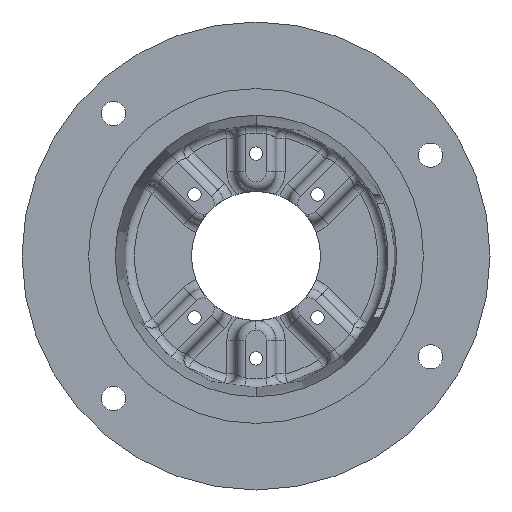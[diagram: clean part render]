
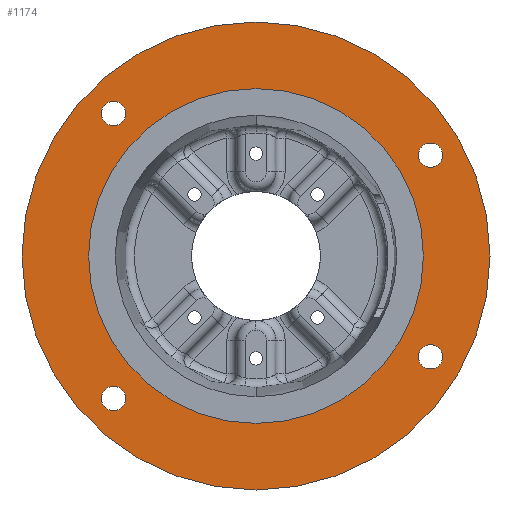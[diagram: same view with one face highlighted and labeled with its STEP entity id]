
A CAD part, front view. The second image highlights one B-rep face of the part: STEP entity #1174.
In plain terms, the highlighted planar face has unit normal (0, -1, 0).
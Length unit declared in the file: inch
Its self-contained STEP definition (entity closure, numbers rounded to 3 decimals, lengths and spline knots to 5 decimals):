
#34 = EDGE_LOOP ( 'NONE', ( #6820, #5378 ) ) ;
#96 = CIRCLE ( 'NONE', #3428, 0.23438 ) ;
#127 = EDGE_CURVE ( 'NONE', #4689, #1696, #5790, .T. ) ;
#206 = CIRCLE ( 'NONE', #2823, 3.2195 ) ;
#259 = ORIENTED_EDGE ( 'NONE', *, *, #1863, .T. ) ;
#361 = VERTEX_POINT ( 'NONE', #5531 ) ;
#367 = VERTEX_POINT ( 'NONE', #2411 ) ;
#419 = AXIS2_PLACEMENT_3D ( 'NONE', #6550, #3299, #7107 ) ;
#438 = CIRCLE ( 'NONE', #6273, 3.2195 ) ;
#586 = CARTESIAN_POINT ( 'NONE',  ( -2.74004, 0., -2.50566 ) ) ;
#638 = DIRECTION ( 'NONE',  ( 0., -1., 0. ) ) ;
#771 = CARTESIAN_POINT ( 'NONE',  ( -4.5, 0., 0. ) ) ;
#880 = FACE_BOUND ( 'NONE', #4028, .T. ) ;
#924 = DIRECTION ( 'NONE',  ( 0., -1., 0. ) ) ;
#957 = DIRECTION ( 'NONE',  ( 0., -1., 0. ) ) ;
#989 = CIRCLE ( 'NONE', #4680, 4.5 ) ;
#1027 = CARTESIAN_POINT ( 'NONE',  ( 3.35585, 0., 1.70313 ) ) ;
#1065 = FACE_BOUND ( 'NONE', #4872, .T. ) ;
#1076 = VERTEX_POINT ( 'NONE', #5845 ) ;
#1133 = ORIENTED_EDGE ( 'NONE', *, *, #4285, .F. ) ;
#1165 = CARTESIAN_POINT ( 'NONE',  ( 0., 0., 0. ) ) ;
#1174 = ADVANCED_FACE ( 'NONE', ( #1065, #2362, #3843, #5284, #880, #6569 ), #1347, .F. ) ;
#1263 = CARTESIAN_POINT ( 'NONE',  ( 3.35585, 0., 1.9375 ) ) ;
#1347 = PLANE ( 'NONE',  #1413 ) ;
#1413 = AXIS2_PLACEMENT_3D ( 'NONE', #771, #1908, #5747 ) ;
#1464 = AXIS2_PLACEMENT_3D ( 'NONE', #3965, #638, #4520 ) ;
#1612 = EDGE_LOOP ( 'NONE', ( #1133, #6053 ) ) ;
#1675 = CIRCLE ( 'NONE', #6061, 0.23438 ) ;
#1696 = VERTEX_POINT ( 'NONE', #1866 ) ;
#1701 = CARTESIAN_POINT ( 'NONE',  ( 3.35585, 0., -1.9375 ) ) ;
#1729 = DIRECTION ( 'NONE',  ( 0., 0., -1. ) ) ;
#1824 = DIRECTION ( 'NONE',  ( 0., 0., -1. ) ) ;
#1863 = EDGE_CURVE ( 'NONE', #6856, #3195, #6250, .T. ) ;
#1866 = CARTESIAN_POINT ( 'NONE',  ( 3.35585, 0., 2.17188 ) ) ;
#1877 = ORIENTED_EDGE ( 'NONE', *, *, #3325, .F. ) ;
#1908 = DIRECTION ( 'NONE',  ( 0., 1., 0. ) ) ;
#1934 = CARTESIAN_POINT ( 'NONE',  ( -2.74004, 0., 2.74004 ) ) ;
#1941 = VERTEX_POINT ( 'NONE', #2338 ) ;
#2005 = EDGE_LOOP ( 'NONE', ( #4182, #259 ) ) ;
#2033 = AXIS2_PLACEMENT_3D ( 'NONE', #2661, #6487, #3228 ) ;
#2103 = CARTESIAN_POINT ( 'NONE',  ( -2.74004, 0., -2.74004 ) ) ;
#2176 = AXIS2_PLACEMENT_3D ( 'NONE', #2103, #5946, #2664 ) ;
#2182 = ORIENTED_EDGE ( 'NONE', *, *, #2399, .F. ) ;
#2195 = CARTESIAN_POINT ( 'NONE',  ( 0., 0., 3.2195 ) ) ;
#2213 = CIRCLE ( 'NONE', #5551, 0.23438 ) ;
#2250 = DIRECTION ( 'NONE',  ( 0., 0., -1. ) ) ;
#2317 = DIRECTION ( 'NONE',  ( 0., -1., 0. ) ) ;
#2338 = CARTESIAN_POINT ( 'NONE',  ( 3.35585, 0., -1.70312 ) ) ;
#2359 = CIRCLE ( 'NONE', #2176, 0.23437 ) ;
#2362 = FACE_OUTER_BOUND ( 'NONE', #2005, .T. ) ;
#2399 = EDGE_CURVE ( 'NONE', #5826, #6163, #4401, .T. ) ;
#2411 = CARTESIAN_POINT ( 'NONE',  ( -2.74004, 0., 2.97441 ) ) ;
#2485 = DIRECTION ( 'NONE',  ( 0., 0., -1. ) ) ;
#2661 = CARTESIAN_POINT ( 'NONE',  ( 3.35585, 0., -1.9375 ) ) ;
#2664 = DIRECTION ( 'NONE',  ( 0., 0., -1. ) ) ;
#2823 = AXIS2_PLACEMENT_3D ( 'NONE', #4286, #957, #4844 ) ;
#2842 = EDGE_CURVE ( 'NONE', #6377, #5777, #206, .T. ) ;
#2992 = CARTESIAN_POINT ( 'NONE',  ( -2.74004, 0., 2.74004 ) ) ;
#3085 = EDGE_CURVE ( 'NONE', #1076, #367, #96, .T. ) ;
#3195 = VERTEX_POINT ( 'NONE', #6360 ) ;
#3228 = DIRECTION ( 'NONE',  ( 0., 0., -1. ) ) ;
#3299 = DIRECTION ( 'NONE',  ( 0., -1., 0. ) ) ;
#3325 = EDGE_CURVE ( 'NONE', #6163, #5826, #2359, .T. ) ;
#3346 = CIRCLE ( 'NONE', #6104, 0.23438 ) ;
#3428 = AXIS2_PLACEMENT_3D ( 'NONE', #1934, #5770, #2485 ) ;
#3439 = EDGE_LOOP ( 'NONE', ( #3803, #4113 ) ) ;
#3538 = DIRECTION ( 'NONE',  ( 0., 0., -1. ) ) ;
#3611 = EDGE_CURVE ( 'NONE', #1941, #361, #4320, .T. ) ;
#3803 = ORIENTED_EDGE ( 'NONE', *, *, #2842, .F. ) ;
#3843 = FACE_BOUND ( 'NONE', #3439, .T. ) ;
#3911 = ORIENTED_EDGE ( 'NONE', *, *, #127, .F. ) ;
#3965 = CARTESIAN_POINT ( 'NONE',  ( -2.74004, 0., -2.74004 ) ) ;
#4028 = EDGE_LOOP ( 'NONE', ( #1877, #2182 ) ) ;
#4113 = ORIENTED_EDGE ( 'NONE', *, *, #6672, .F. ) ;
#4182 = ORIENTED_EDGE ( 'NONE', *, *, #4579, .T. ) ;
#4239 = CARTESIAN_POINT ( 'NONE',  ( 0., 0., 0. ) ) ;
#4285 = EDGE_CURVE ( 'NONE', #361, #1941, #2213, .T. ) ;
#4286 = CARTESIAN_POINT ( 'NONE',  ( 0., 0., 0. ) ) ;
#4320 = CIRCLE ( 'NONE', #2033, 0.23438 ) ;
#4401 = CIRCLE ( 'NONE', #1464, 0.23437 ) ;
#4520 = DIRECTION ( 'NONE',  ( 0., 0., -1. ) ) ;
#4579 = EDGE_CURVE ( 'NONE', #3195, #6856, #989, .T. ) ;
#4680 = AXIS2_PLACEMENT_3D ( 'NONE', #4239, #924, #4807 ) ;
#4689 = VERTEX_POINT ( 'NONE', #1027 ) ;
#4807 = DIRECTION ( 'NONE',  ( 0., 0., -1. ) ) ;
#4844 = DIRECTION ( 'NONE',  ( 0., 0., -1. ) ) ;
#4872 = EDGE_LOOP ( 'NONE', ( #3911, #6171 ) ) ;
#4974 = CARTESIAN_POINT ( 'NONE',  ( -2.74004, 0., -2.97441 ) ) ;
#5024 = DIRECTION ( 'NONE',  ( 0., -1., 0. ) ) ;
#5122 = DIRECTION ( 'NONE',  ( 0., -1., 0. ) ) ;
#5284 = FACE_BOUND ( 'NONE', #34, .T. ) ;
#5378 = ORIENTED_EDGE ( 'NONE', *, *, #6349, .F. ) ;
#5531 = CARTESIAN_POINT ( 'NONE',  ( 3.35585, 0., -2.17187 ) ) ;
#5538 = DIRECTION ( 'NONE',  ( 0., -1., 0. ) ) ;
#5542 = EDGE_CURVE ( 'NONE', #1696, #4689, #3346, .T. ) ;
#5551 = AXIS2_PLACEMENT_3D ( 'NONE', #1701, #5538, #2250 ) ;
#5598 = CARTESIAN_POINT ( 'NONE',  ( 0., 0., 0. ) ) ;
#5734 = CARTESIAN_POINT ( 'NONE',  ( 0., 0., -3.2195 ) ) ;
#5747 = DIRECTION ( 'NONE',  ( 0., 0., 1. ) ) ;
#5770 = DIRECTION ( 'NONE',  ( 0., -1., 0. ) ) ;
#5773 = CARTESIAN_POINT ( 'NONE',  ( 0., 0., 4.5 ) ) ;
#5777 = VERTEX_POINT ( 'NONE', #2195 ) ;
#5790 = CIRCLE ( 'NONE', #419, 0.23438 ) ;
#5826 = VERTEX_POINT ( 'NONE', #586 ) ;
#5845 = CARTESIAN_POINT ( 'NONE',  ( -2.74004, 0., 2.50566 ) ) ;
#5946 = DIRECTION ( 'NONE',  ( 0., -1., 0. ) ) ;
#6053 = ORIENTED_EDGE ( 'NONE', *, *, #3611, .F. ) ;
#6061 = AXIS2_PLACEMENT_3D ( 'NONE', #2992, #6795, #3538 ) ;
#6104 = AXIS2_PLACEMENT_3D ( 'NONE', #1263, #5122, #1824 ) ;
#6154 = DIRECTION ( 'NONE',  ( 0., 0., -1. ) ) ;
#6163 = VERTEX_POINT ( 'NONE', #4974 ) ;
#6171 = ORIENTED_EDGE ( 'NONE', *, *, #5542, .F. ) ;
#6250 = CIRCLE ( 'NONE', #6288, 4.5 ) ;
#6273 = AXIS2_PLACEMENT_3D ( 'NONE', #1165, #5024, #1729 ) ;
#6288 = AXIS2_PLACEMENT_3D ( 'NONE', #5598, #2317, #6154 ) ;
#6349 = EDGE_CURVE ( 'NONE', #367, #1076, #1675, .T. ) ;
#6360 = CARTESIAN_POINT ( 'NONE',  ( 0., 0., -4.5 ) ) ;
#6377 = VERTEX_POINT ( 'NONE', #5734 ) ;
#6487 = DIRECTION ( 'NONE',  ( 0., -1., 0. ) ) ;
#6550 = CARTESIAN_POINT ( 'NONE',  ( 3.35585, 0., 1.9375 ) ) ;
#6569 = FACE_BOUND ( 'NONE', #1612, .T. ) ;
#6672 = EDGE_CURVE ( 'NONE', #5777, #6377, #438, .T. ) ;
#6795 = DIRECTION ( 'NONE',  ( 0., -1., 0. ) ) ;
#6820 = ORIENTED_EDGE ( 'NONE', *, *, #3085, .F. ) ;
#6856 = VERTEX_POINT ( 'NONE', #5773 ) ;
#7107 = DIRECTION ( 'NONE',  ( 0., 0., -1. ) ) ;
